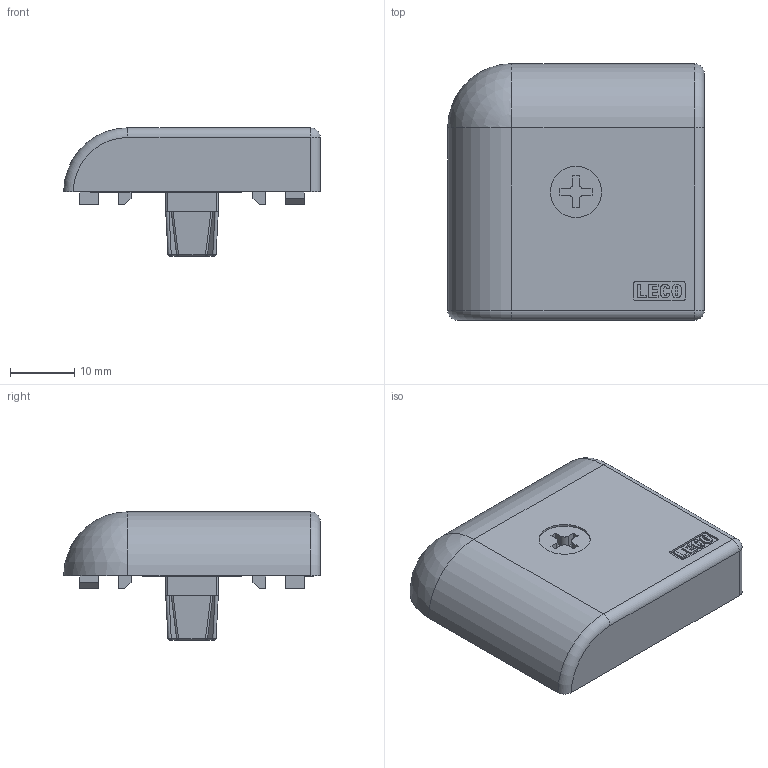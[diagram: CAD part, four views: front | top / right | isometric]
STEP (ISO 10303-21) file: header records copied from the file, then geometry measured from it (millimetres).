
FILE_DESCRIPTION(('STEP AP214'),'1');
FILE_NAME('EP44R-T10.stp','2018-07-24T10:11:42',(' '),(' '),'Spatial InterOp 3D',' ',' ');
FILE_SCHEMA(('automotive_design'));
Length unit declared in the file: millimetre
Products named in the file (1): EP44R-T10
Bounding box: 40 x 40 x 20 mm (x, y, z)
Volume: 8448.2 mm3; surface area: 6350.3 mm2
Topology: 1 solids, 1 shells, 241 faces, 613 edges, 367 vertices
Faces by surface type: plane 116, cylinder 96, sphere 19, torus 10
Full cylindrical faces by diameter (mm): 8 x1
Entity records: 9007 total; most frequent: DIRECTION 1293, CARTESIAN_POINT 1202, ORIENTED_EDGE 1186, EDGE_CURVE 593, AXIS2_PLACEMENT_3D 458, LINE 377, VECTOR 377, VERTEX_POINT 367
